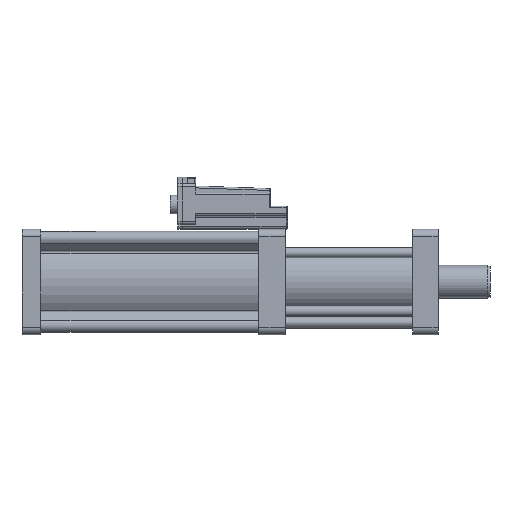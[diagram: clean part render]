
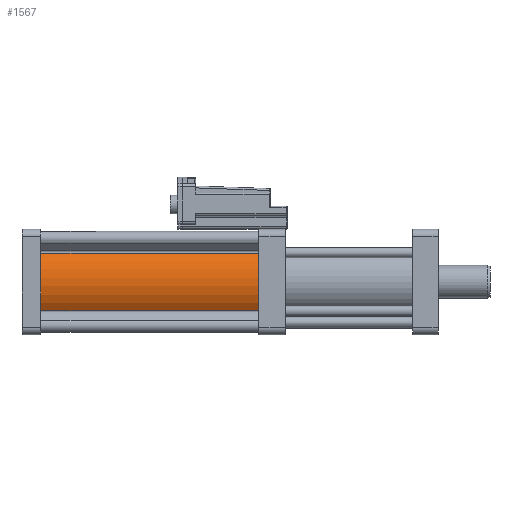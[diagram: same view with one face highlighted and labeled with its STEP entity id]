
A CAD part, left-side view. The second image highlights one B-rep face of the part: STEP entity #1567.
In plain terms, the highlighted cylindrical face has radius 53 mm (diameter 106 mm), a partial arc.
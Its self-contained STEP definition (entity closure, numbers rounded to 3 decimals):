
#66 = DIRECTION ( 'NONE',  ( 0., -1., 0. ) ) ;
#1567 = ADVANCED_FACE ( 'NONE', ( #12436 ), #3641, .T. ) ;
#1866 = AXIS2_PLACEMENT_3D ( 'NONE', #2552, #10242, #3655 ) ;
#2494 = DIRECTION ( 'NONE',  ( 0., -1., 0. ) ) ;
#2552 = CARTESIAN_POINT ( 'NONE',  ( 0., -81., -56. ) ) ;
#2769 = CARTESIAN_POINT ( 'NONE',  ( -43.387, 301.321, -25.56 ) ) ;
#3551 = LINE ( 'NONE', #4675, #11647 ) ;
#3641 = CYLINDRICAL_SURFACE ( 'NONE', #12839, 53. ) ;
#3655 = DIRECTION ( 'NONE',  ( 0., 0., 1. ) ) ;
#3882 = EDGE_LOOP ( 'NONE', ( #8253, #5535, #7847, #11491 ) ) ;
#3936 = VERTEX_POINT ( 'NONE', #7043 ) ;
#4675 = CARTESIAN_POINT ( 'NONE',  ( -43.387, 301.321, -86.44 ) ) ;
#5519 = EDGE_CURVE ( 'NONE', #7021, #8555, #11694, .T. ) ;
#5535 = ORIENTED_EDGE ( 'NONE', *, *, #6908, .T. ) ;
#5599 = CARTESIAN_POINT ( 'NONE',  ( 0., 301.321, -56. ) ) ;
#5796 = CARTESIAN_POINT ( 'NONE',  ( 0., 150., -56. ) ) ;
#6899 = DIRECTION ( 'NONE',  ( 0., 0., 1. ) ) ;
#6908 = EDGE_CURVE ( 'NONE', #7021, #8830, #3551, .T. ) ;
#7021 = VERTEX_POINT ( 'NONE', #13725 ) ;
#7043 = CARTESIAN_POINT ( 'NONE',  ( -43.387, -81., -25.56 ) ) ;
#7072 = EDGE_CURVE ( 'NONE', #8555, #3936, #9557, .T. ) ;
#7847 = ORIENTED_EDGE ( 'NONE', *, *, #12012, .T. ) ;
#8253 = ORIENTED_EDGE ( 'NONE', *, *, #5519, .F. ) ;
#8555 = VERTEX_POINT ( 'NONE', #13339 ) ;
#8830 = VERTEX_POINT ( 'NONE', #12791 ) ;
#9104 = AXIS2_PLACEMENT_3D ( 'NONE', #5796, #13499, #6899 ) ;
#9346 = DIRECTION ( 'NONE',  ( 0., -1., 0. ) ) ;
#9557 = LINE ( 'NONE', #2769, #13215 ) ;
#10242 = DIRECTION ( 'NONE',  ( 0., 1., 0. ) ) ;
#11491 = ORIENTED_EDGE ( 'NONE', *, *, #7072, .F. ) ;
#11647 = VECTOR ( 'NONE', #2494, 1000. ) ;
#11694 = CIRCLE ( 'NONE', #9104, 53. ) ;
#12012 = EDGE_CURVE ( 'NONE', #8830, #3936, #12213, .T. ) ;
#12162 = DIRECTION ( 'NONE',  ( 0., 0., -1. ) ) ;
#12213 = CIRCLE ( 'NONE', #1866, 53. ) ;
#12436 = FACE_OUTER_BOUND ( 'NONE', #3882, .T. ) ;
#12791 = CARTESIAN_POINT ( 'NONE',  ( -43.387, -81., -86.44 ) ) ;
#12839 = AXIS2_PLACEMENT_3D ( 'NONE', #5599, #66, #12162 ) ;
#13215 = VECTOR ( 'NONE', #9346, 1000. ) ;
#13339 = CARTESIAN_POINT ( 'NONE',  ( -43.387, 150., -25.56 ) ) ;
#13499 = DIRECTION ( 'NONE',  ( 0., 1., 0. ) ) ;
#13725 = CARTESIAN_POINT ( 'NONE',  ( -43.387, 150., -86.44 ) ) ;
